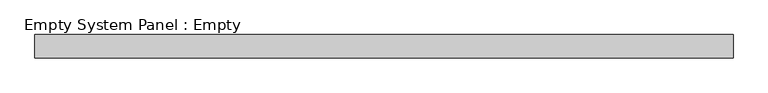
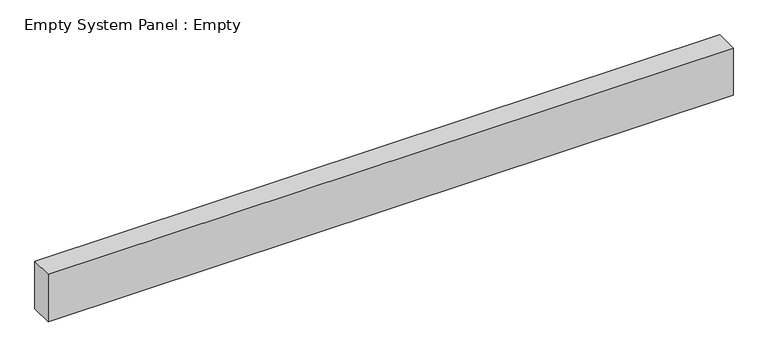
"""IFC4 building model written with IfcOpenShell, lengths in millimetres: plate geometry, Empty System Panel : Empty."""

from ifc_helpers import new_model, si_unit, origin, origin_with_axes, place, context, project, spatial, polyline, outline, extrude, source, transform, mapped, element, save


def empty_system_panel_empty_4dce7524(model_context):
    return source(origin(), model_context, "Body", "SweptSolid", [
        extrude(outline(polyline([(1500.0, -50.0), (-1500.0, -50.0), (-1500.0, 50.0), (1500.0, 50.0), (1500.0, -50.0)])), origin_with_axes(), (0.0, 0.0, 1.0), 219.240855),
    ])


if __name__ == "__main__":
    model = new_model("IFC4")
    model_context = context("Model", 3, world=origin())
    ifc_project = project(units=[si_unit("LENGTHUNIT", "METRE", prefix="MILLI")], contexts=[model_context])
    site = spatial("IfcSite", under=ifc_project)
    building = spatial("IfcBuilding", under=site)
    placement = place(None, origin())
    empty_system_panel_empty_shape = empty_system_panel_empty_4dce7524(model_context)
    element("IfcPlate", 1, ObjectType="Empty System Panel : Empty", at=placement, inside=building, context=model_context, shape_type="MappedRepresentation", body=[
        mapped(empty_system_panel_empty_shape, transform((0.0, 0.0, 0.0), x_axis=(1.0, 0.0, 0.0), y_axis=(0.0, 1.0, 0.0), z_axis=(0.0, 0.0, 1.0))),
    ])
    save(model, "model.ifc")
